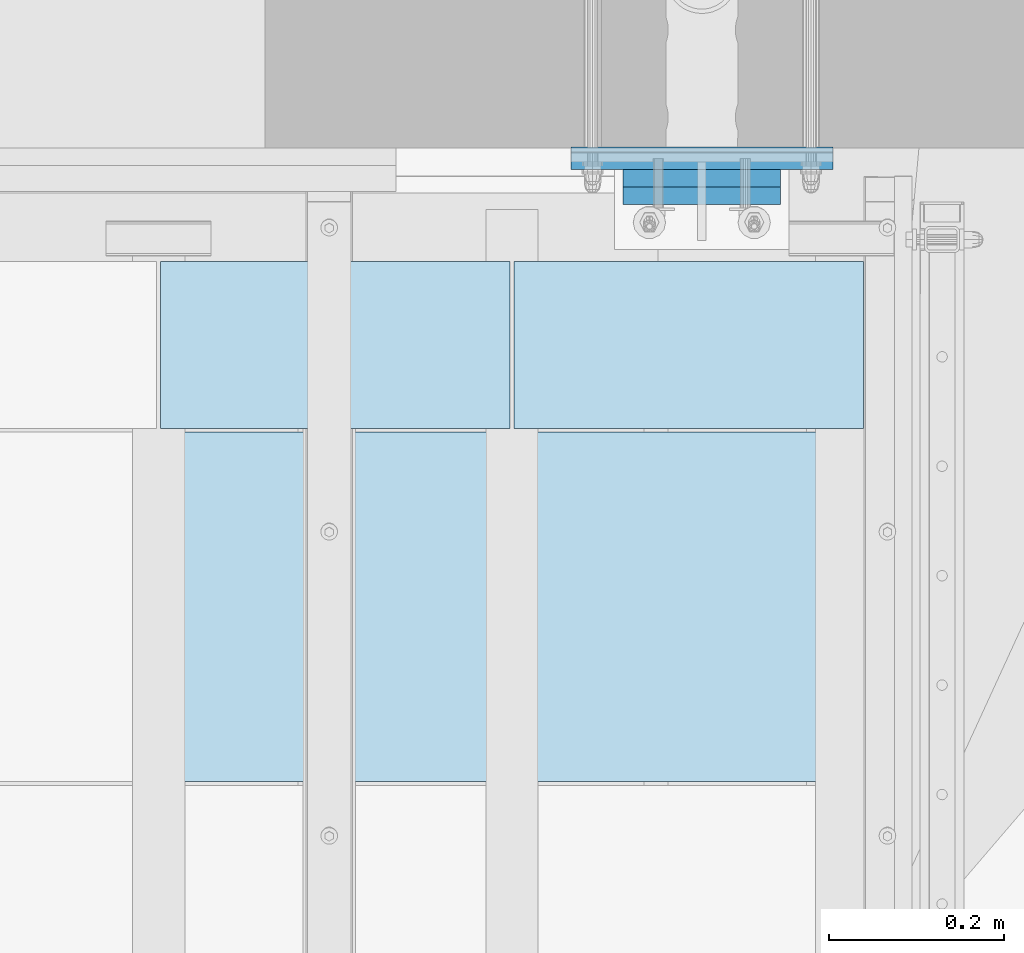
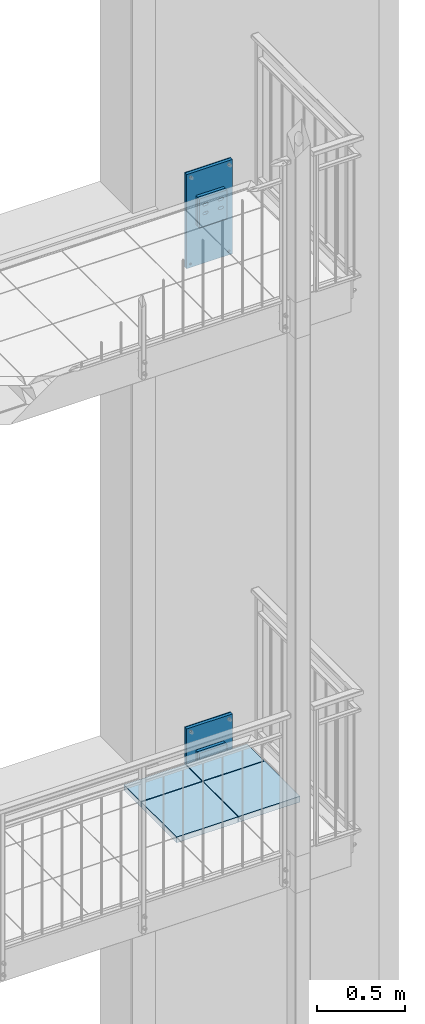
# One storey, part 66 of 162: 12 plates, 48 openings.
"""IFC2X3 building model written with IfcOpenShell, lengths in millimetres."""

from ifc_helpers import new_model, entity, si_unit, converted_unit, point, frame, frame_2d, origin, origin_with_axes, place, context, project, spatial, polyline, circle_curve, line_curve, trimmed, segment, composite_curve, circle, outline, extrude, material, layer, layer_set, element, save


model = new_model("IFC2X3")

# Units and contexts
model_context = context("Model", 3, precision=1e-09, world=origin_with_axes())
ifc_project = project(units=[si_unit("LENGTHUNIT", "METRE", prefix="MILLI"), si_unit("AREAUNIT", "SQUARE_METRE"), si_unit("VOLUMEUNIT", "CUBIC_METRE"), converted_unit("PLANEANGLEUNIT", "DEGREE", entity("IfcPlaneAngleMeasure", 0.01745329), si_unit("PLANEANGLEUNIT", "RADIAN"), dimensions=[0, 0, 0, 0, 0, 0, 0])], contexts=[model_context])

# Site, building, storey
site_placement = place(None, origin_with_axes())
site = spatial("IfcSite", under=ifc_project, at=site_placement, Name="Hermannstra?e 1a, 60318 Frankfurt", CompositionType="ELEMENT")
building_placement = place(site_placement, origin_with_axes())
building = spatial("IfcBuilding", under=site, at=building_placement, Name="Struktur 1", CompositionType="ELEMENT")
storey_placement = place(building_placement, origin_with_axes())
storey = spatial("IfcBuildingStorey", under=building, at=storey_placement, Name="Default Storey", CompositionType="ELEMENT", Elevation=0.0)

# Plate, openings
ifc_material_1 = material(Name="Thermostop")
ifc_layer_1 = layer(ifc_material_1, 6.0)
ifc_layer_set_1 = layer_set([ifc_layer_1], Name="Thermostop")
plate_1_placement = place(None, frame((5573.308657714, 2736.608666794, 7605.0), z_axis=(0.0, -1.0, 0.0), x_axis=(1.0, 0.0, 0.0)))
plate_1 = element("IfcPlate", 1, at=plate_1_placement, inside=storey, material=ifc_layer_set_1, Name="-", ObjectType="-", context=model_context, shape_type="SweptSolid", body=[
    extrude(outline(polyline([(-150.0, -325.0), (150.0, -325.0), (150.0, 325.0), (-150.0, 325.0), (-150.0, -325.0)])), origin_with_axes(), (0.0, 0.0, 1.0), 6.0),
])
opening_1_placement = place(plate_1_placement, frame((0.0, 0.0, -0.5), z_axis=(0.0, 0.0, 1.0), x_axis=(1.0, 0.0, 0.0)))
element("IfcOpeningElement", 2, at=opening_1_placement, cuts=plate_1, ObjectType="Opening", context=model_context, shape_type="SweptSolid", body=[
    extrude(circle(Radius=10.001, at=frame_2d((125.0, 300.0), x_axis=(1.0, 0.0))), origin(), (0.0, 0.0, 1.0), 7.0),
])
opening_2_placement = place(plate_1_placement, frame((0.0, 0.0, -0.5), z_axis=(0.0, 0.0, 1.0), x_axis=(1.0, 0.0, 0.0)))
element("IfcOpeningElement", 3, at=opening_2_placement, cuts=plate_1, ObjectType="Opening", context=model_context, shape_type="SweptSolid", body=[
    extrude(circle(Radius=10.001, at=frame_2d((-125.0, 300.0), x_axis=(1.0, 0.0))), origin(), (0.0, 0.0, 1.0), 7.0),
])
opening_3_placement = place(plate_1_placement, frame((0.0, 0.0, -0.5), z_axis=(0.0, 0.0, 1.0), x_axis=(1.0, 0.0, 0.0)))
element("IfcOpeningElement", 4, at=opening_3_placement, cuts=plate_1, ObjectType="Opening", context=model_context, shape_type="SweptSolid", body=[
    extrude(circle(Radius=10.001, at=frame_2d((125.0, -300.0), x_axis=(1.0, 0.0))), origin(), (0.0, 0.0, 1.0), 7.0),
])
opening_4_placement = place(plate_1_placement, frame((0.0, 0.0, -0.5), z_axis=(0.0, 0.0, 1.0), x_axis=(1.0, 0.0, 0.0)))
element("IfcOpeningElement", 5, at=opening_4_placement, cuts=plate_1, ObjectType="Opening", context=model_context, shape_type="SweptSolid", body=[
    extrude(circle(Radius=10.001, at=frame_2d((-125.0, -300.0), x_axis=(1.0, 0.0))), origin(), (0.0, 0.0, 1.0), 7.0),
])
opening_5_placement = place(plate_1_placement, frame((0.0, -40.0, -0.5), z_axis=(0.0, 0.0, 1.0), x_axis=(1.0, 0.0, 0.0)))
element("IfcOpeningElement", 6, at=opening_5_placement, cuts=plate_1, ObjectType="Opening", context=model_context, shape_type="SweptSolid", body=[
    extrude(circle(Radius=11.001, at=frame_2d((50.0, 150.0), x_axis=(1.0, 0.0))), origin(), (0.0, 0.0, 1.0), 7.0),
])
opening_6_placement = place(plate_1_placement, frame((0.0, -40.0, -0.5), z_axis=(0.0, 0.0, 1.0), x_axis=(1.0, 0.0, 0.0)))
element("IfcOpeningElement", 7, at=opening_6_placement, cuts=plate_1, ObjectType="Opening", context=model_context, shape_type="SweptSolid", body=[
    extrude(circle(Radius=11.001, at=frame_2d((-50.0, 150.0), x_axis=(1.0, 0.0))), origin(), (0.0, 0.0, 1.0), 7.0),
])
opening_7_placement = place(plate_1_placement, frame((0.0, -40.0, -0.5), z_axis=(0.0, 0.0, 1.0), x_axis=(1.0, 0.0, 0.0)))
element("IfcOpeningElement", 8, at=opening_7_placement, cuts=plate_1, ObjectType="Opening", context=model_context, shape_type="SweptSolid", body=[
    extrude(circle(Radius=11.001, at=frame_2d((50.0, 90.0), x_axis=(1.0, 0.0))), origin(), (0.0, 0.0, 1.0), 7.0),
])
opening_8_placement = place(plate_1_placement, frame((0.0, -40.0, -0.5), z_axis=(0.0, 0.0, 1.0), x_axis=(1.0, 0.0, 0.0)))
element("IfcOpeningElement", 9, at=opening_8_placement, cuts=plate_1, ObjectType="Opening", context=model_context, shape_type="SweptSolid", body=[
    extrude(circle(Radius=11.001, at=frame_2d((-50.0, 90.0), x_axis=(1.0, 0.0))), origin(), (0.0, 0.0, 1.0), 7.0),
])
opening_9_placement = place(plate_1_placement, frame((0.0, -125.0, -0.5), z_axis=(0.0, 0.0, 1.0), x_axis=(1.0, 0.0, 0.0)))
element("IfcOpeningElement", 10, at=opening_9_placement, cuts=plate_1, ObjectType="Opening", context=model_context, shape_type="SweptSolid", body=[
    extrude(circle(Radius=50.001, at=frame_2d((0.0, -10.0), x_axis=(1.0, 0.0))), origin(), (0.0, 0.0, 1.0), 7.0),
])
opening_10_placement = place(plate_1_placement, frame((0.0, -325.0, -0.5), z_axis=(0.0, 0.0, 1.0), x_axis=(1.0, 0.0, 0.0)))
element("IfcOpeningElement", 11, at=opening_10_placement, cuts=plate_1, ObjectType="Opening", context=model_context, shape_type="SweptSolid", body=[
    extrude(circle(Radius=15.001, at=frame_2d((0.0, 310.0), x_axis=(1.0, 0.0))), origin(), (0.0, 0.0, 1.0), 7.0),
])

ifc_material_2 = material(Name="S235JR")
ifc_layer_2 = layer(ifc_material_2, 20.0)
ifc_layer_set_2 = layer_set([ifc_layer_2], Name="S235JR")
plate_2_placement = place(None, frame((5573.308657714, 2730.608666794, 7605.0), z_axis=(0.0, -1.0, 0.0), x_axis=(1.0, 0.0, 0.0)))
plate_2 = element("IfcPlate", 12, at=plate_2_placement, inside=storey, material=ifc_layer_set_2, Name="-", ObjectType="-", context=model_context, shape_type="SweptSolid", body=[
    extrude(outline(polyline([(-150.0, -325.0), (150.0, -325.0), (150.0, 325.0), (-150.0, 325.0), (-150.0, -325.0)])), origin_with_axes(), (0.0, 0.0, 1.0), 20.0),
])
opening_11_placement = place(plate_2_placement, frame((0.0, 0.0, -0.5), z_axis=(0.0, 0.0, 1.0), x_axis=(1.0, 0.0, 0.0)))
element("IfcOpeningElement", 13, at=opening_11_placement, cuts=plate_2, ObjectType="Opening", context=model_context, shape_type="SweptSolid", body=[
    extrude(circle(Radius=8.001, at=frame_2d((125.0, 300.0), x_axis=(1.0, 0.0))), origin(), (0.0, 0.0, 1.0), 21.0),
])
opening_12_placement = place(plate_2_placement, frame((0.0, 0.0, -0.5), z_axis=(0.0, 0.0, 1.0), x_axis=(1.0, 0.0, 0.0)))
element("IfcOpeningElement", 14, at=opening_12_placement, cuts=plate_2, ObjectType="Opening", context=model_context, shape_type="SweptSolid", body=[
    extrude(circle(Radius=8.001, at=frame_2d((-125.0, 300.0), x_axis=(1.0, 0.0))), origin(), (0.0, 0.0, 1.0), 21.0),
])
opening_13_placement = place(plate_2_placement, frame((0.0, 0.0, -0.5), z_axis=(0.0, 0.0, 1.0), x_axis=(1.0, 0.0, 0.0)))
element("IfcOpeningElement", 15, at=opening_13_placement, cuts=plate_2, ObjectType="Opening", context=model_context, shape_type="SweptSolid", body=[
    extrude(circle(Radius=8.001, at=frame_2d((125.0, -300.0), x_axis=(1.0, 0.0))), origin(), (0.0, 0.0, 1.0), 21.0),
])
opening_14_placement = place(plate_2_placement, frame((0.0, 0.0, -0.5), z_axis=(0.0, 0.0, 1.0), x_axis=(1.0, 0.0, 0.0)))
element("IfcOpeningElement", 16, at=opening_14_placement, cuts=plate_2, ObjectType="Opening", context=model_context, shape_type="SweptSolid", body=[
    extrude(circle(Radius=8.001, at=frame_2d((-125.0, -300.0), x_axis=(1.0, 0.0))), origin(), (0.0, 0.0, 1.0), 21.0),
])
opening_15_placement = place(plate_2_placement, frame((0.0, 325.0, -0.5), z_axis=(0.0, 0.0, 1.0), x_axis=(1.0, 0.0, 0.0)))
element("IfcOpeningElement", 17, at=opening_15_placement, cuts=plate_2, ObjectType="Opening", context=model_context, shape_type="SweptSolid", body=[
    extrude(circle(Radius=11.001, at=frame_2d((50.0, -215.0), x_axis=(1.0, 0.0))), origin(), (0.0, 0.0, 1.0), 21.0),
])
opening_16_placement = place(plate_2_placement, frame((0.0, 325.0, -0.5), z_axis=(0.0, 0.0, 1.0), x_axis=(1.0, 0.0, 0.0)))
element("IfcOpeningElement", 18, at=opening_16_placement, cuts=plate_2, ObjectType="Opening", context=model_context, shape_type="SweptSolid", body=[
    extrude(circle(Radius=11.001, at=frame_2d((-50.0, -215.0), x_axis=(1.0, 0.0))), origin(), (0.0, 0.0, 1.0), 21.0),
])
opening_17_placement = place(plate_2_placement, frame((0.0, 325.0, -0.5), z_axis=(0.0, 0.0, 1.0), x_axis=(1.0, 0.0, 0.0)))
element("IfcOpeningElement", 19, at=opening_17_placement, cuts=plate_2, ObjectType="Opening", context=model_context, shape_type="SweptSolid", body=[
    extrude(circle(Radius=11.001, at=frame_2d((50.0, -275.0), x_axis=(1.0, 0.0))), origin(), (0.0, 0.0, 1.0), 21.0),
])
opening_18_placement = place(plate_2_placement, frame((0.0, 325.0, -0.5), z_axis=(0.0, 0.0, 1.0), x_axis=(1.0, 0.0, 0.0)))
element("IfcOpeningElement", 20, at=opening_18_placement, cuts=plate_2, ObjectType="Opening", context=model_context, shape_type="SweptSolid", body=[
    extrude(circle(Radius=11.001, at=frame_2d((-50.0, -275.0), x_axis=(1.0, 0.0))), origin(), (0.0, 0.0, 1.0), 21.0),
])
opening_19_placement = place(plate_2_placement, frame((0.0, -5.0, -0.5), z_axis=(0.0, 0.0, 1.0), x_axis=(1.0, 0.0, 0.0)))
element("IfcOpeningElement", 21, at=opening_19_placement, cuts=plate_2, ObjectType="Opening", context=model_context, shape_type="SweptSolid", body=[
    extrude(circle(Radius=15.001, at=frame_2d((0.0, -10.0), x_axis=(1.0, 0.0))), origin(), (0.0, 0.0, 1.0), 21.0),
])

plate_3_placement = place(None, frame((5573.308657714, 2690.608666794, 7665.0), z_axis=(0.0, -1.0, 0.0), x_axis=(1.0, 0.0, 0.0)))
plate_3 = element("IfcPlate", 22, at=plate_3_placement, inside=storey, material=ifc_layer_set_2, Name="-", ObjectType="-", context=model_context, shape_type="SweptSolid", body=[
    extrude(outline(polyline([(-90.0, -100.0), (90.0, -100.0), (90.0, 100.0), (-90.0, 100.0), (-90.0, -100.0)])), origin_with_axes(), (0.0, 0.0, 1.0), 20.0),
])
opening_20_placement = place(plate_3_placement, frame((-2e-08, 19.999999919, -0.5), z_axis=(0.0, 0.0, 1.0), x_axis=(1.0, 0.0, 0.0)))
element("IfcOpeningElement", 23, at=opening_20_placement, cuts=plate_3, ObjectType="Opening", context=model_context, shape_type="SweptSolid", body=[
    extrude(outline(composite_curve([segment(trimmed(line_curve((41.5, 20.999), (1.0, 0.0), 17.0), [point((41.5, 20.999))], [point((58.5, 20.999))], True, "CARTESIAN"), True, "CONTINUOUS"), segment(trimmed(circle_curve(frame_2d((58.5, 30.0), x_axis=(1.0, 0.0)), 9.001), [point((58.5, 20.999))], [point((58.5, 39.001))], True, "CARTESIAN"), True, "CONTINUOUS"), segment(trimmed(line_curve((58.5, 39.001), (-1.0, 0.0), 17.0), [point((58.5, 39.001))], [point((41.5, 39.001))], True, "CARTESIAN"), True, "CONTINUOUS"), segment(trimmed(circle_curve(frame_2d((41.5, 30.0), x_axis=(1.0, 0.0)), 9.001), [point((41.5, 39.001))], [point((41.5, 20.999))], True, "CARTESIAN"), True, "CONTINUOUS")], self_intersect=False)), origin(), (0.0, 0.0, 1.0), 21.0),
])
opening_21_placement = place(plate_3_placement, frame((-2e-08, 19.999999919, -0.5), z_axis=(0.0, 0.0, 1.0), x_axis=(1.0, 0.0, 0.0)))
element("IfcOpeningElement", 24, at=opening_21_placement, cuts=plate_3, ObjectType="Opening", context=model_context, shape_type="SweptSolid", body=[
    extrude(outline(composite_curve([segment(trimmed(line_curve((-58.5, 20.999), (1.0, 0.0), 17.0), [point((-58.5, 20.999))], [point((-41.5, 20.999))], True, "CARTESIAN"), True, "CONTINUOUS"), segment(trimmed(circle_curve(frame_2d((-41.5, 30.0), x_axis=(1.0, 0.0)), 9.001), [point((-41.5, 20.999))], [point((-41.5, 39.001))], True, "CARTESIAN"), True, "CONTINUOUS"), segment(trimmed(line_curve((-41.5, 39.001), (-1.0, 0.0), 17.0), [point((-41.5, 39.001))], [point((-58.5, 39.001))], True, "CARTESIAN"), True, "CONTINUOUS"), segment(trimmed(circle_curve(frame_2d((-58.5, 30.0), x_axis=(1.0, 0.0)), 9.001), [point((-58.5, 39.001))], [point((-58.5, 20.999))], True, "CARTESIAN"), True, "CONTINUOUS")], self_intersect=False)), origin(), (0.0, 0.0, 1.0), 21.0),
])
opening_22_placement = place(plate_3_placement, frame((-2e-08, 19.999999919, -0.5), z_axis=(0.0, 0.0, 1.0), x_axis=(1.0, 0.0, 0.0)))
element("IfcOpeningElement", 25, at=opening_22_placement, cuts=plate_3, ObjectType="Opening", context=model_context, shape_type="SweptSolid", body=[
    extrude(outline(composite_curve([segment(trimmed(line_curve((41.5, -39.001), (1.0, 0.0), 17.0), [point((41.5, -39.001))], [point((58.5, -39.001))], True, "CARTESIAN"), True, "CONTINUOUS"), segment(trimmed(circle_curve(frame_2d((58.5, -30.0), x_axis=(1.0, 0.0)), 9.001), [point((58.5, -39.001))], [point((58.5, -20.999))], True, "CARTESIAN"), True, "CONTINUOUS"), segment(trimmed(line_curve((58.5, -20.999), (-1.0, 0.0), 17.0), [point((58.5, -20.999))], [point((41.5, -20.999))], True, "CARTESIAN"), True, "CONTINUOUS"), segment(trimmed(circle_curve(frame_2d((41.5, -30.0), x_axis=(1.0, 0.0)), 9.001), [point((41.5, -20.999))], [point((41.5, -39.001))], True, "CARTESIAN"), True, "CONTINUOUS")], self_intersect=False)), origin(), (0.0, 0.0, 1.0), 21.0),
])
opening_23_placement = place(plate_3_placement, frame((-2e-08, 19.999999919, -0.5), z_axis=(0.0, 0.0, 1.0), x_axis=(1.0, 0.0, 0.0)))
element("IfcOpeningElement", 26, at=opening_23_placement, cuts=plate_3, ObjectType="Opening", context=model_context, shape_type="SweptSolid", body=[
    extrude(outline(composite_curve([segment(trimmed(line_curve((-58.5, -39.001), (1.0, 0.0), 17.0), [point((-58.5, -39.001))], [point((-41.5, -39.001))], True, "CARTESIAN"), True, "CONTINUOUS"), segment(trimmed(circle_curve(frame_2d((-41.5, -30.0), x_axis=(1.0, 0.0)), 9.001), [point((-41.5, -39.001))], [point((-41.5, -20.999))], True, "CARTESIAN"), True, "CONTINUOUS"), segment(trimmed(line_curve((-41.5, -20.999), (-1.0, 0.0), 17.0), [point((-41.5, -20.999))], [point((-58.5, -20.999))], True, "CARTESIAN"), True, "CONTINUOUS"), segment(trimmed(circle_curve(frame_2d((-58.5, -30.0), x_axis=(1.0, 0.0)), 9.001), [point((-58.5, -20.999))], [point((-58.5, -39.001))], True, "CARTESIAN"), True, "CONTINUOUS")], self_intersect=False)), origin(), (0.0, 0.0, 1.0), 21.0),
])

# Plate, opening
plate_4_placement = place(None, frame((5573.308657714, 2710.608666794, 7665.0), z_axis=(0.0, -1.0, 0.0), x_axis=(1.0, 0.0, 0.0)))
plate_4 = element("IfcPlate", 27, at=plate_4_placement, inside=storey, material=ifc_layer_set_2, Name="-", ObjectType="-", context=model_context, shape_type="SweptSolid", body=[
    extrude(outline(polyline([(-90.0, -100.0), (90.0, -100.0), (90.0, 100.0), (-90.0, 100.0), (-90.0, -100.0)])), origin_with_axes(), (0.0, 0.0, 1.0), 20.0),
])
opening_24_placement = place(plate_4_placement, frame((0.0, -65.0, -0.5), z_axis=(0.0, 0.0, 1.0), x_axis=(1.0, 0.0, 0.0)))
element("IfcOpeningElement", 28, at=opening_24_placement, cuts=plate_4, ObjectType="Opening", context=model_context, shape_type="SweptSolid", body=[
    extrude(circle(Radius=15.001, at=frame_2d((0.0, -10.0), x_axis=(1.0, 0.0))), origin(), (0.0, 0.0, 1.0), 21.0),
])

# Plate, openings
plate_5_placement = place(None, frame((5573.310071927, 2736.610081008, 3780.0), z_axis=(0.0, -1.0, 0.0), x_axis=(1.0, 0.0, 0.0)))
plate_5 = element("IfcPlate", 29, at=plate_5_placement, inside=storey, material=ifc_layer_set_1, Name="-", ObjectType="-", context=model_context, shape_type="SweptSolid", body=[
    extrude(outline(polyline([(-150.0, -325.0), (150.0, -325.0), (150.0, 325.0), (-150.0, 325.0), (-150.0, -325.0)])), origin_with_axes(), (0.0, 0.0, 1.0), 6.0),
])
opening_25_placement = place(plate_5_placement, frame((0.0, 0.0, -0.5), z_axis=(0.0, 0.0, 1.0), x_axis=(1.0, 0.0, 0.0)))
element("IfcOpeningElement", 30, at=opening_25_placement, cuts=plate_5, ObjectType="Opening", context=model_context, shape_type="SweptSolid", body=[
    extrude(circle(Radius=10.001, at=frame_2d((125.0, 300.0), x_axis=(1.0, 0.0))), origin(), (0.0, 0.0, 1.0), 7.0),
])
opening_26_placement = place(plate_5_placement, frame((0.0, 0.0, -0.5), z_axis=(0.0, 0.0, 1.0), x_axis=(1.0, 0.0, 0.0)))
element("IfcOpeningElement", 31, at=opening_26_placement, cuts=plate_5, ObjectType="Opening", context=model_context, shape_type="SweptSolid", body=[
    extrude(circle(Radius=10.001, at=frame_2d((-125.0, 300.0), x_axis=(1.0, 0.0))), origin(), (0.0, 0.0, 1.0), 7.0),
])
opening_27_placement = place(plate_5_placement, frame((0.0, 0.0, -0.5), z_axis=(0.0, 0.0, 1.0), x_axis=(1.0, 0.0, 0.0)))
element("IfcOpeningElement", 32, at=opening_27_placement, cuts=plate_5, ObjectType="Opening", context=model_context, shape_type="SweptSolid", body=[
    extrude(circle(Radius=10.001, at=frame_2d((125.0, -300.0), x_axis=(1.0, 0.0))), origin(), (0.0, 0.0, 1.0), 7.0),
])
opening_28_placement = place(plate_5_placement, frame((0.0, 0.0, -0.5), z_axis=(0.0, 0.0, 1.0), x_axis=(1.0, 0.0, 0.0)))
element("IfcOpeningElement", 33, at=opening_28_placement, cuts=plate_5, ObjectType="Opening", context=model_context, shape_type="SweptSolid", body=[
    extrude(circle(Radius=10.001, at=frame_2d((-125.0, -300.0), x_axis=(1.0, 0.0))), origin(), (0.0, 0.0, 1.0), 7.0),
])
opening_29_placement = place(plate_5_placement, frame((0.0, -40.0, -0.5), z_axis=(0.0, 0.0, 1.0), x_axis=(1.0, 0.0, 0.0)))
element("IfcOpeningElement", 34, at=opening_29_placement, cuts=plate_5, ObjectType="Opening", context=model_context, shape_type="SweptSolid", body=[
    extrude(circle(Radius=11.001, at=frame_2d((50.0, 150.0), x_axis=(1.0, 0.0))), origin(), (0.0, 0.0, 1.0), 7.0),
])
opening_30_placement = place(plate_5_placement, frame((0.0, -40.0, -0.5), z_axis=(0.0, 0.0, 1.0), x_axis=(1.0, 0.0, 0.0)))
element("IfcOpeningElement", 35, at=opening_30_placement, cuts=plate_5, ObjectType="Opening", context=model_context, shape_type="SweptSolid", body=[
    extrude(circle(Radius=11.001, at=frame_2d((-50.0, 150.0), x_axis=(1.0, 0.0))), origin(), (0.0, 0.0, 1.0), 7.0),
])
opening_31_placement = place(plate_5_placement, frame((0.0, -40.0, -0.5), z_axis=(0.0, 0.0, 1.0), x_axis=(1.0, 0.0, 0.0)))
element("IfcOpeningElement", 36, at=opening_31_placement, cuts=plate_5, ObjectType="Opening", context=model_context, shape_type="SweptSolid", body=[
    extrude(circle(Radius=11.001, at=frame_2d((50.0, 90.0), x_axis=(1.0, 0.0))), origin(), (0.0, 0.0, 1.0), 7.0),
])
opening_32_placement = place(plate_5_placement, frame((0.0, -40.0, -0.5), z_axis=(0.0, 0.0, 1.0), x_axis=(1.0, 0.0, 0.0)))
element("IfcOpeningElement", 37, at=opening_32_placement, cuts=plate_5, ObjectType="Opening", context=model_context, shape_type="SweptSolid", body=[
    extrude(circle(Radius=11.001, at=frame_2d((-50.0, 90.0), x_axis=(1.0, 0.0))), origin(), (0.0, 0.0, 1.0), 7.0),
])
opening_33_placement = place(plate_5_placement, frame((0.0, -125.0, -0.5), z_axis=(0.0, 0.0, 1.0), x_axis=(1.0, 0.0, 0.0)))
element("IfcOpeningElement", 38, at=opening_33_placement, cuts=plate_5, ObjectType="Opening", context=model_context, shape_type="SweptSolid", body=[
    extrude(circle(Radius=50.001, at=frame_2d((0.0, -10.0), x_axis=(1.0, 0.0))), origin(), (0.0, 0.0, 1.0), 7.0),
])
opening_34_placement = place(plate_5_placement, frame((0.0, -325.0, -0.5), z_axis=(0.0, 0.0, 1.0), x_axis=(1.0, 0.0, 0.0)))
element("IfcOpeningElement", 39, at=opening_34_placement, cuts=plate_5, ObjectType="Opening", context=model_context, shape_type="SweptSolid", body=[
    extrude(circle(Radius=15.001, at=frame_2d((0.0, 310.0), x_axis=(1.0, 0.0))), origin(), (0.0, 0.0, 1.0), 7.0),
])

plate_6_placement = place(None, frame((5573.310071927, 2730.610081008, 3780.0), z_axis=(0.0, -1.0, 0.0), x_axis=(1.0, 0.0, 0.0)))
plate_6 = element("IfcPlate", 40, at=plate_6_placement, inside=storey, material=ifc_layer_set_2, Name="-", ObjectType="-", context=model_context, shape_type="SweptSolid", body=[
    extrude(outline(polyline([(-150.0, -325.0), (150.0, -325.0), (150.0, 325.0), (-150.0, 325.0), (-150.0, -325.0)])), origin_with_axes(), (0.0, 0.0, 1.0), 20.0),
])
opening_35_placement = place(plate_6_placement, frame((0.0, 0.0, -0.5), z_axis=(0.0, 0.0, 1.0), x_axis=(1.0, 0.0, 0.0)))
element("IfcOpeningElement", 41, at=opening_35_placement, cuts=plate_6, ObjectType="Opening", context=model_context, shape_type="SweptSolid", body=[
    extrude(circle(Radius=8.001, at=frame_2d((125.0, 300.0), x_axis=(1.0, 0.0))), origin(), (0.0, 0.0, 1.0), 21.0),
])
opening_36_placement = place(plate_6_placement, frame((0.0, 0.0, -0.5), z_axis=(0.0, 0.0, 1.0), x_axis=(1.0, 0.0, 0.0)))
element("IfcOpeningElement", 42, at=opening_36_placement, cuts=plate_6, ObjectType="Opening", context=model_context, shape_type="SweptSolid", body=[
    extrude(circle(Radius=8.001, at=frame_2d((-125.0, 300.0), x_axis=(1.0, 0.0))), origin(), (0.0, 0.0, 1.0), 21.0),
])
opening_37_placement = place(plate_6_placement, frame((0.0, 0.0, -0.5), z_axis=(0.0, 0.0, 1.0), x_axis=(1.0, 0.0, 0.0)))
element("IfcOpeningElement", 43, at=opening_37_placement, cuts=plate_6, ObjectType="Opening", context=model_context, shape_type="SweptSolid", body=[
    extrude(circle(Radius=8.001, at=frame_2d((125.0, -300.0), x_axis=(1.0, 0.0))), origin(), (0.0, 0.0, 1.0), 21.0),
])
opening_38_placement = place(plate_6_placement, frame((0.0, 0.0, -0.5), z_axis=(0.0, 0.0, 1.0), x_axis=(1.0, 0.0, 0.0)))
element("IfcOpeningElement", 44, at=opening_38_placement, cuts=plate_6, ObjectType="Opening", context=model_context, shape_type="SweptSolid", body=[
    extrude(circle(Radius=8.001, at=frame_2d((-125.0, -300.0), x_axis=(1.0, 0.0))), origin(), (0.0, 0.0, 1.0), 21.0),
])
opening_39_placement = place(plate_6_placement, frame((0.0, 325.0, -0.5), z_axis=(0.0, 0.0, 1.0), x_axis=(1.0, 0.0, 0.0)))
element("IfcOpeningElement", 45, at=opening_39_placement, cuts=plate_6, ObjectType="Opening", context=model_context, shape_type="SweptSolid", body=[
    extrude(circle(Radius=11.001, at=frame_2d((50.0, -215.0), x_axis=(1.0, 0.0))), origin(), (0.0, 0.0, 1.0), 21.0),
])
opening_40_placement = place(plate_6_placement, frame((0.0, 325.0, -0.5), z_axis=(0.0, 0.0, 1.0), x_axis=(1.0, 0.0, 0.0)))
element("IfcOpeningElement", 46, at=opening_40_placement, cuts=plate_6, ObjectType="Opening", context=model_context, shape_type="SweptSolid", body=[
    extrude(circle(Radius=11.001, at=frame_2d((-50.0, -215.0), x_axis=(1.0, 0.0))), origin(), (0.0, 0.0, 1.0), 21.0),
])
opening_41_placement = place(plate_6_placement, frame((0.0, 325.0, -0.5), z_axis=(0.0, 0.0, 1.0), x_axis=(1.0, 0.0, 0.0)))
element("IfcOpeningElement", 47, at=opening_41_placement, cuts=plate_6, ObjectType="Opening", context=model_context, shape_type="SweptSolid", body=[
    extrude(circle(Radius=11.001, at=frame_2d((50.0, -275.0), x_axis=(1.0, 0.0))), origin(), (0.0, 0.0, 1.0), 21.0),
])
opening_42_placement = place(plate_6_placement, frame((0.0, 325.0, -0.5), z_axis=(0.0, 0.0, 1.0), x_axis=(1.0, 0.0, 0.0)))
element("IfcOpeningElement", 48, at=opening_42_placement, cuts=plate_6, ObjectType="Opening", context=model_context, shape_type="SweptSolid", body=[
    extrude(circle(Radius=11.001, at=frame_2d((-50.0, -275.0), x_axis=(1.0, 0.0))), origin(), (0.0, 0.0, 1.0), 21.0),
])
opening_43_placement = place(plate_6_placement, frame((0.0, -5.0, -0.5), z_axis=(0.0, 0.0, 1.0), x_axis=(1.0, 0.0, 0.0)))
element("IfcOpeningElement", 49, at=opening_43_placement, cuts=plate_6, ObjectType="Opening", context=model_context, shape_type="SweptSolid", body=[
    extrude(circle(Radius=15.001, at=frame_2d((0.0, -10.0), x_axis=(1.0, 0.0))), origin(), (0.0, 0.0, 1.0), 21.0),
])

plate_7_placement = place(None, frame((5573.310071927, 2690.610081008, 3840.0), z_axis=(0.0, -1.0, 0.0), x_axis=(1.0, 0.0, 0.0)))
plate_7 = element("IfcPlate", 50, at=plate_7_placement, inside=storey, material=ifc_layer_set_2, Name="-", ObjectType="-", context=model_context, shape_type="SweptSolid", body=[
    extrude(outline(polyline([(-90.0, -100.0), (90.0, -100.0), (90.0, 100.0), (-90.0, 100.0), (-90.0, -100.0)])), origin_with_axes(), (0.0, 0.0, 1.0), 20.0),
])
opening_44_placement = place(plate_7_placement, frame((-2e-08, 19.999999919, -0.5), z_axis=(0.0, 0.0, 1.0), x_axis=(1.0, 0.0, 0.0)))
element("IfcOpeningElement", 51, at=opening_44_placement, cuts=plate_7, ObjectType="Opening", context=model_context, shape_type="SweptSolid", body=[
    extrude(outline(composite_curve([segment(trimmed(line_curve((41.5, 20.999), (1.0, 0.0), 17.0), [point((41.5, 20.999))], [point((58.5, 20.999))], True, "CARTESIAN"), True, "CONTINUOUS"), segment(trimmed(circle_curve(frame_2d((58.5, 30.0), x_axis=(1.0, 0.0)), 9.001), [point((58.5, 20.999))], [point((58.5, 39.001))], True, "CARTESIAN"), True, "CONTINUOUS"), segment(trimmed(line_curve((58.5, 39.001), (-1.0, 0.0), 17.0), [point((58.5, 39.001))], [point((41.5, 39.001))], True, "CARTESIAN"), True, "CONTINUOUS"), segment(trimmed(circle_curve(frame_2d((41.5, 30.0), x_axis=(1.0, 0.0)), 9.001), [point((41.5, 39.001))], [point((41.5, 20.999))], True, "CARTESIAN"), True, "CONTINUOUS")], self_intersect=False)), origin(), (0.0, 0.0, 1.0), 21.0),
])
opening_45_placement = place(plate_7_placement, frame((-2e-08, 19.999999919, -0.5), z_axis=(0.0, 0.0, 1.0), x_axis=(1.0, 0.0, 0.0)))
element("IfcOpeningElement", 52, at=opening_45_placement, cuts=plate_7, ObjectType="Opening", context=model_context, shape_type="SweptSolid", body=[
    extrude(outline(composite_curve([segment(trimmed(line_curve((-58.5, 20.999), (1.0, 0.0), 17.0), [point((-58.5, 20.999))], [point((-41.5, 20.999))], True, "CARTESIAN"), True, "CONTINUOUS"), segment(trimmed(circle_curve(frame_2d((-41.5, 30.0), x_axis=(1.0, 0.0)), 9.001), [point((-41.5, 20.999))], [point((-41.5, 39.001))], True, "CARTESIAN"), True, "CONTINUOUS"), segment(trimmed(line_curve((-41.5, 39.001), (-1.0, 0.0), 17.0), [point((-41.5, 39.001))], [point((-58.5, 39.001))], True, "CARTESIAN"), True, "CONTINUOUS"), segment(trimmed(circle_curve(frame_2d((-58.5, 30.0), x_axis=(1.0, 0.0)), 9.001), [point((-58.5, 39.001))], [point((-58.5, 20.999))], True, "CARTESIAN"), True, "CONTINUOUS")], self_intersect=False)), origin(), (0.0, 0.0, 1.0), 21.0),
])
opening_46_placement = place(plate_7_placement, frame((-2e-08, 19.999999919, -0.5), z_axis=(0.0, 0.0, 1.0), x_axis=(1.0, 0.0, 0.0)))
element("IfcOpeningElement", 53, at=opening_46_placement, cuts=plate_7, ObjectType="Opening", context=model_context, shape_type="SweptSolid", body=[
    extrude(outline(composite_curve([segment(trimmed(line_curve((41.5, -39.001), (1.0, 0.0), 17.0), [point((41.5, -39.001))], [point((58.5, -39.001))], True, "CARTESIAN"), True, "CONTINUOUS"), segment(trimmed(circle_curve(frame_2d((58.5, -30.0), x_axis=(1.0, 0.0)), 9.001), [point((58.5, -39.001))], [point((58.5, -20.999))], True, "CARTESIAN"), True, "CONTINUOUS"), segment(trimmed(line_curve((58.5, -20.999), (-1.0, 0.0), 17.0), [point((58.5, -20.999))], [point((41.5, -20.999))], True, "CARTESIAN"), True, "CONTINUOUS"), segment(trimmed(circle_curve(frame_2d((41.5, -30.0), x_axis=(1.0, 0.0)), 9.001), [point((41.5, -20.999))], [point((41.5, -39.001))], True, "CARTESIAN"), True, "CONTINUOUS")], self_intersect=False)), origin(), (0.0, 0.0, 1.0), 21.0),
])
opening_47_placement = place(plate_7_placement, frame((-2e-08, 19.999999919, -0.5), z_axis=(0.0, 0.0, 1.0), x_axis=(1.0, 0.0, 0.0)))
element("IfcOpeningElement", 54, at=opening_47_placement, cuts=plate_7, ObjectType="Opening", context=model_context, shape_type="SweptSolid", body=[
    extrude(outline(composite_curve([segment(trimmed(line_curve((-58.5, -39.001), (1.0, 0.0), 17.0), [point((-58.5, -39.001))], [point((-41.5, -39.001))], True, "CARTESIAN"), True, "CONTINUOUS"), segment(trimmed(circle_curve(frame_2d((-41.5, -30.0), x_axis=(1.0, 0.0)), 9.001), [point((-41.5, -39.001))], [point((-41.5, -20.999))], True, "CARTESIAN"), True, "CONTINUOUS"), segment(trimmed(line_curve((-41.5, -20.999), (-1.0, 0.0), 17.0), [point((-41.5, -20.999))], [point((-58.5, -20.999))], True, "CARTESIAN"), True, "CONTINUOUS"), segment(trimmed(circle_curve(frame_2d((-58.5, -30.0), x_axis=(1.0, 0.0)), 9.001), [point((-58.5, -20.999))], [point((-58.5, -39.001))], True, "CARTESIAN"), True, "CONTINUOUS")], self_intersect=False)), origin(), (0.0, 0.0, 1.0), 21.0),
])

# Plate, opening
plate_8_placement = place(None, frame((5573.310071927, 2710.610081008, 3840.0), z_axis=(0.0, -1.0, 0.0), x_axis=(1.0, 0.0, 0.0)))
plate_8 = element("IfcPlate", 55, at=plate_8_placement, inside=storey, material=ifc_layer_set_2, Name="-", ObjectType="-", context=model_context, shape_type="SweptSolid", body=[
    extrude(outline(polyline([(-90.0, -100.0), (90.0, -100.0), (90.0, 100.0), (-90.0, 100.0), (-90.0, -100.0)])), origin_with_axes(), (0.0, 0.0, 1.0), 20.0),
])
opening_48_placement = place(plate_8_placement, frame((0.0, -65.0, -0.5), z_axis=(0.0, 0.0, 1.0), x_axis=(1.0, 0.0, 0.0)))
element("IfcOpeningElement", 56, at=opening_48_placement, cuts=plate_8, ObjectType="Opening", context=model_context, shape_type="SweptSolid", body=[
    extrude(circle(Radius=15.001, at=frame_2d((0.0, -10.0), x_axis=(1.0, 0.0))), origin(), (0.0, 0.0, 1.0), 21.0),
])

# Plates
ifc_material_3 = material(Name="BWS")
ifc_layer_3 = layer(ifc_material_3, 40.0)
ifc_layer_set_3 = layer_set([ifc_layer_3], Name="BWS")
for number, where, z_axis, x_axis in (
    (57, (4953.80936482, 2410.109373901, 3949.0), (0.0, 0.0, -1.0), (1.0, 0.0, 0.0)),
    (58, (5358.30936482, 2410.109373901, 3949.0), (0.0, 0.0, -1.0), (1.0, 0.0, 0.0)),
):
    element("IfcPlate", number, at=place(None, frame(where, z_axis=z_axis, x_axis=x_axis)), inside=storey, material=ifc_layer_set_3, Name="-", ObjectType="-", context=model_context, shape_type="SweptSolid", body=[
        extrude(outline(polyline([(0.0, 0.0), (400.0, 0.0), (400.0, 400.0), (0.0, 400.0), (0.0, 0.0)])), origin_with_axes(), (0.0, 0.0, 1.0), 40.0),
    ])
for number, where, z_axis, x_axis in (
    (59, (4953.80936482, 2814.609373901, 3949.0), (0.0, 0.0, -1.0), (1.0, 0.0, 0.0)),
    (60, (5358.30936482, 2814.609373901, 3949.0), (0.0, 0.0, -1.0), (1.0, 0.0, 0.0)),
):
    element("IfcPlate", number, at=place(None, frame(where, z_axis=z_axis, x_axis=x_axis)), inside=storey, material=ifc_layer_set_3, Name="-", ObjectType="-", context=model_context, shape_type="SweptSolid", body=[
        extrude(outline(polyline([(0.0, 209.0), (400.0, 209.0), (400.0, 400.0), (0.0, 400.0), (0.0, 209.0)])), origin_with_axes(), (0.0, 0.0, 1.0), 40.0),
    ])

save(model, "model.ifc")
